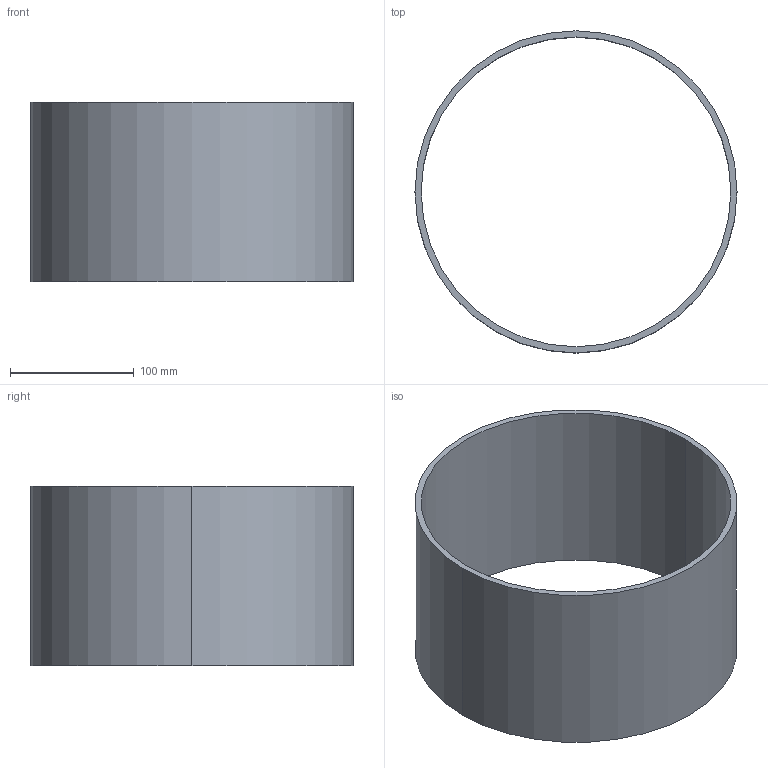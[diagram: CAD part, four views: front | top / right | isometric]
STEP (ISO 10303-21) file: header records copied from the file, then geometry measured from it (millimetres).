
FILE_DESCRIPTION(('CATIA V5 STEP Exchange'),'2;1');
FILE_NAME('C:\_Andres\UNIVERSIDAD\IQS\ASIGNATURAS\DAO\EXF\EXF-15161c\1original\Garcia_Granada_Ej07-tabla_v30.stp','2016-03-04T21:16:36+00:00',('none'),('none'),'CATIA Version 5 Release 20 SP 1 (IN-10)','CATIA V5 STEP AP203','none');
FILE_SCHEMA(('CONFIG_CONTROL_DESIGN'));
Length unit declared in the file: millimetre
Products named in the file (1): Garcia_Granada_Ej07-tabla_v30
Bounding box: 260 x 260 x 145 mm (x, y, z)
Volume: 580801.9 mm3; surface area: 240331.8 mm2
Topology: 1 solids, 1 shells, 6 faces, 13 edges, 10 vertices
Faces by surface type: cylinder 4, plane 2
Entity records: 208 total; most frequent: CARTESIAN_POINT 29, ORIENTED_EDGE 24, DIRECTION 23, AXIS2_PLACEMENT_3D 14, EDGE_CURVE 12, CIRCLE 8, EDGE_LOOP 8, VERTEX_POINT 8
